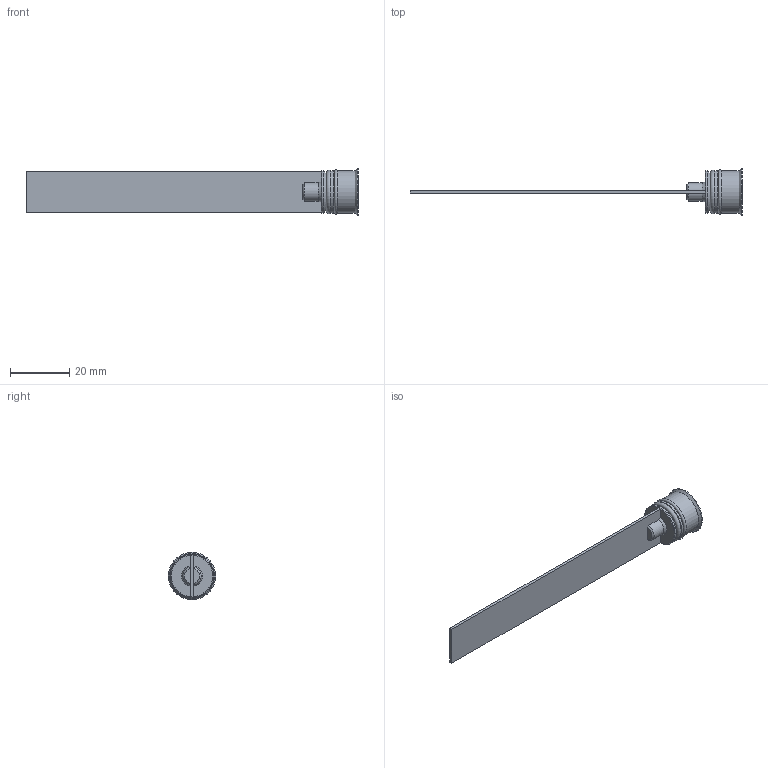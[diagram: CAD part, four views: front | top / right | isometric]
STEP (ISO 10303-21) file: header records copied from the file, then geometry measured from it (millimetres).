
FILE_DESCRIPTION( ( 'STEP AP214' ), '1' );
FILE_NAME( 'p:/temp/worker_226/temp/exporttempdir_6032_836_tLGyk/format_0/RL-14x100.stp', '2021-02-05T19:41:37', ( 'License CC BY-ND 4.0' ), ( 'CADENAS' ), ' ', 'PARTsolutions', ' ' );
FILE_SCHEMA( ( 'AUTOMOTIVE_DESIGN { 1 0 10303 214 1 1 1 1 }' ) );
Length unit declared in the file: millimetre
Products named in the file (1): _RL-14x100
Bounding box: 112.5 x 16 x 16 mm (x, y, z)
Volume: 3489.3 mm3; surface area: 4353.5 mm2
Topology: 1 solids, 1 shells, 48 faces, 116 edges, 75 vertices
Faces by surface type: plane 27, cone 10, cylinder 9, torus 2
Full cylindrical faces by diameter (mm): 6 x1, 14.5 x3, 16 x1
Entity records: 1758 total; most frequent: CARTESIAN_POINT 279, DIRECTION 216, ORIENTED_EDGE 208, EDGE_CURVE 104, AXIS2_PLACEMENT_3D 77, VERTEX_POINT 76, EDGE_LOOP 64, LINE 62
